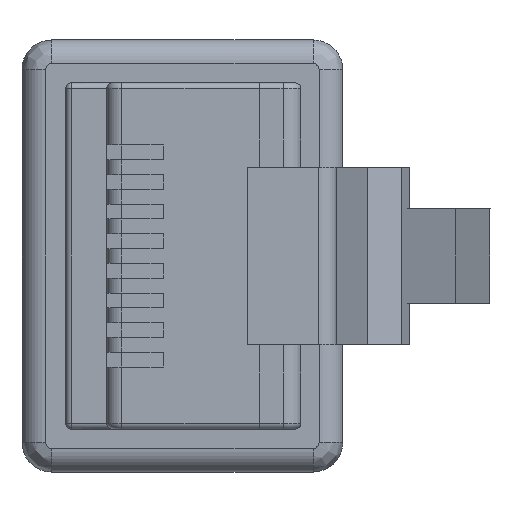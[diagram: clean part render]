
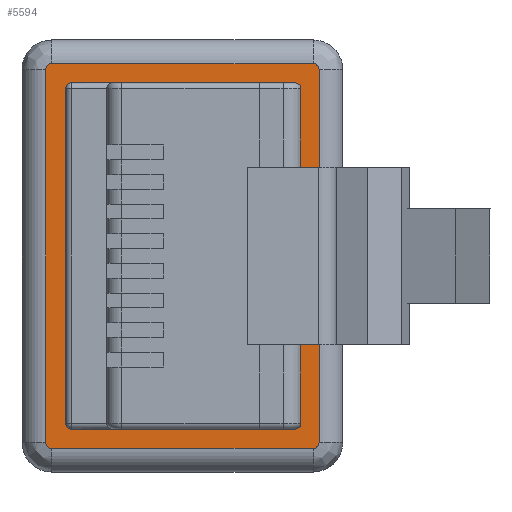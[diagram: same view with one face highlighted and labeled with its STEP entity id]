
A CAD part, left-side view. The second image highlights one B-rep face of the part: STEP entity #5594.
In plain terms, the highlighted planar face has unit normal (-1, 0, 0).
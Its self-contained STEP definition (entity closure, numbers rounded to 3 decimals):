
#73=DIRECTION('',(0.,1.,0.));
#74=VECTOR('',#73,7.54);
#75=CARTESIAN_POINT('',(18.65,-6.35,-5.85));
#76=LINE('',#75,#74);
#97=CARTESIAN_POINT('',(18.65,1.866,6.296));
#98=DIRECTION('',(1.,0.,0.));
#99=DIRECTION('',(0.,1.,0.));
#100=AXIS2_PLACEMENT_3D('',#97,#98,#99);
#105=CARTESIAN_POINT('',(18.65,-6.966,6.296));
#106=DIRECTION('',(1.,0.,0.));
#107=DIRECTION('',(0.,0.,1.));
#108=AXIS2_PLACEMENT_3D('',#105,#106,#107);
#113=CARTESIAN_POINT('',(18.65,-6.966,-6.296));
#114=DIRECTION('',(1.,0.,0.));
#115=DIRECTION('',(0.,-1.,0.));
#116=AXIS2_PLACEMENT_3D('',#113,#114,#115);
#121=CARTESIAN_POINT('',(18.65,1.866,-6.296));
#122=DIRECTION('',(1.,0.,0.));
#123=DIRECTION('',(0.,0.,-1.));
#124=AXIS2_PLACEMENT_3D('',#121,#122,#123);
#129=DIRECTION('',(0.,0.,-1.));
#130=VECTOR('',#129,12.593);
#131=CARTESIAN_POINT('',(18.65,2.066,6.296));
#132=LINE('',#131,#130);
#152=DIRECTION('',(0.,-1.,0.));
#153=VECTOR('',#152,8.833);
#154=CARTESIAN_POINT('',(18.65,1.866,-6.496));
#155=LINE('',#154,#153);
#175=DIRECTION('',(0.,0.,1.));
#176=VECTOR('',#175,12.593);
#177=CARTESIAN_POINT('',(18.65,-7.166,-6.296));
#178=LINE('',#177,#176);
#198=DIRECTION('',(0.,1.,0.));
#199=VECTOR('',#198,8.833);
#200=CARTESIAN_POINT('',(18.65,-6.966,6.496));
#201=LINE('',#200,#199);
#1907=CARTESIAN_POINT('',(18.65,-6.35,-5.65));
#1908=DIRECTION('',(-1.,0.,0.));
#1909=DIRECTION('',(0.,0.,-1.));
#1910=AXIS2_PLACEMENT_3D('',#1907,#1908,#1909);
#2058=CARTESIAN_POINT('',(18.65,1.19,-5.65));
#2059=DIRECTION('',(1.,0.,0.));
#2060=DIRECTION('',(0.,0.,-1.));
#2061=AXIS2_PLACEMENT_3D('',#2058,#2059,#2060);
#2073=DIRECTION('',(0.,0.,1.));
#2074=VECTOR('',#2073,1.246);
#2075=CARTESIAN_POINT('',(18.65,1.39,-5.65));
#2076=LINE('',#2075,#2074);
#2080=DIRECTION('',(0.,0.,1.));
#2081=VECTOR('',#2080,1.246);
#2082=CARTESIAN_POINT('',(18.65,1.39,4.404));
#2083=LINE('',#2082,#2081);
#2094=CARTESIAN_POINT('',(18.65,1.39,-4.404));
#2095=CARTESIAN_POINT('',(18.65,1.39,-4.367));
#2096=CARTESIAN_POINT('',(18.65,1.381,-4.297));
#2097=CARTESIAN_POINT('',(18.65,1.348,-4.2));
#2098=CARTESIAN_POINT('',(18.65,1.306,-4.117));
#2099=CARTESIAN_POINT('',(18.65,1.264,-4.044));
#2100=CARTESIAN_POINT('',(18.65,1.226,-3.976));
#2101=CARTESIAN_POINT('',(18.65,1.21,-3.926));
#2102=CARTESIAN_POINT('',(18.65,1.21,-3.9));
#2124=DIRECTION('',(0.,0.,1.));
#2125=VECTOR('',#2124,7.8);
#2126=CARTESIAN_POINT('',(18.65,1.21,-3.9));
#2127=LINE('',#2126,#2125);
#2139=CARTESIAN_POINT('',(18.65,1.21,3.9));
#2140=CARTESIAN_POINT('',(18.65,1.21,3.931));
#2141=CARTESIAN_POINT('',(18.65,1.232,3.991));
#2142=CARTESIAN_POINT('',(18.65,1.284,4.077));
#2143=CARTESIAN_POINT('',(18.65,1.337,4.173));
#2144=CARTESIAN_POINT('',(18.65,1.379,4.286));
#2145=CARTESIAN_POINT('',(18.65,1.39,4.363));
#2146=CARTESIAN_POINT('',(18.65,1.39,4.404));
#2525=CARTESIAN_POINT('',(18.65,1.19,5.65));
#2526=DIRECTION('',(-1.,0.,0.));
#2527=DIRECTION('',(0.,0.,1.));
#2528=AXIS2_PLACEMENT_3D('',#2525,#2526,#2527);
#2547=DIRECTION('',(0.,1.,0.));
#2548=VECTOR('',#2547,7.54);
#2549=CARTESIAN_POINT('',(18.65,-6.35,5.85));
#2550=LINE('',#2549,#2548);
#2577=CARTESIAN_POINT('',(18.65,-6.35,5.65));
#2578=DIRECTION('',(1.,0.,0.));
#2579=DIRECTION('',(0.,0.,1.));
#2580=AXIS2_PLACEMENT_3D('',#2577,#2578,#2579);
#2592=DIRECTION('',(0.,0.,-1.));
#2593=VECTOR('',#2592,11.3);
#2594=CARTESIAN_POINT('',(18.65,-6.55,5.65));
#2595=LINE('',#2594,#2593);
#5178=CARTESIAN_POINT('',(18.65,2.066,6.296));
#5179=CARTESIAN_POINT('',(18.65,1.866,6.496));
#5180=VERTEX_POINT('',#5178);
#5181=VERTEX_POINT('',#5179);
#5182=CARTESIAN_POINT('',(18.65,-6.966,6.496));
#5183=VERTEX_POINT('',#5182);
#5184=CARTESIAN_POINT('',(18.65,-7.166,6.296));
#5185=VERTEX_POINT('',#5184);
#5186=CARTESIAN_POINT('',(18.65,-7.166,
-6.296));
#5187=VERTEX_POINT('',#5186);
#5188=CARTESIAN_POINT('',(18.65,-6.966,
-6.496));
#5189=VERTEX_POINT('',#5188);
#5190=CARTESIAN_POINT('',(18.65,1.866,-6.496));
#5191=VERTEX_POINT('',#5190);
#5192=CARTESIAN_POINT('',(18.65,2.066,-6.296));
#5193=VERTEX_POINT('',#5192);
#5483=CARTESIAN_POINT('',(18.65,-6.35,-5.85));
#5484=CARTESIAN_POINT('',(18.65,1.19,-5.85));
#5485=VERTEX_POINT('',#5483);
#5486=VERTEX_POINT('',#5484);
#5487=CARTESIAN_POINT('',(18.65,-6.55,-5.65));
#5488=VERTEX_POINT('',#5487);
#5489=CARTESIAN_POINT('',(18.65,1.39,-5.65));
#5490=VERTEX_POINT('',#5489);
#5491=CARTESIAN_POINT('',(18.65,1.39,-4.404));
#5492=VERTEX_POINT('',#5491);
#5493=CARTESIAN_POINT('',(18.65,1.39,4.404));
#5494=CARTESIAN_POINT('',(18.65,1.39,5.65));
#5495=VERTEX_POINT('',#5493);
#5496=VERTEX_POINT('',#5494);
#5497=VERTEX_POINT('',#2102);
#5498=CARTESIAN_POINT('',(18.65,1.21,3.9));
#5499=VERTEX_POINT('',#5498);
#5500=CARTESIAN_POINT('',(18.65,-6.35,5.85));
#5501=CARTESIAN_POINT('',(18.65,1.19,5.85));
#5502=VERTEX_POINT('',#5500);
#5503=VERTEX_POINT('',#5501);
#5504=CARTESIAN_POINT('',(18.65,-6.55,5.65));
#5505=VERTEX_POINT('',#5504);
#5546=CARTESIAN_POINT('',(18.65,-2.55,0.));
#5547=DIRECTION('',(1.,0.,0.));
#5548=DIRECTION('',(0.,0.,-1.));
#5549=AXIS2_PLACEMENT_3D('',#5546,#5547,#5548);
#5550=PLANE('',#5549);
#5552=ORIENTED_EDGE('',*,*,#5551,.T.);
#5554=ORIENTED_EDGE('',*,*,#5553,.F.);
#5556=ORIENTED_EDGE('',*,*,#5555,.T.);
#5558=ORIENTED_EDGE('',*,*,#5557,.F.);
#5560=ORIENTED_EDGE('',*,*,#5559,.T.);
#5562=ORIENTED_EDGE('',*,*,#5561,.F.);
#5564=ORIENTED_EDGE('',*,*,#5563,.T.);
#5566=ORIENTED_EDGE('',*,*,#5565,.F.);
#5567=EDGE_LOOP('',(#5552,#5554,#5556,#5558,#5560,#5562,#5564,#5566));
#5568=FACE_OUTER_BOUND('',#5567,.F.);
#5569=ORIENTED_EDGE('',*,*,#5511,.F.);
#5571=ORIENTED_EDGE('',*,*,#5570,.T.);
#5573=ORIENTED_EDGE('',*,*,#5572,.F.);
#5575=ORIENTED_EDGE('',*,*,#5574,.F.);
#5577=ORIENTED_EDGE('',*,*,#5576,.T.);
#5579=ORIENTED_EDGE('',*,*,#5578,.T.);
#5581=ORIENTED_EDGE('',*,*,#5580,.F.);
#5583=ORIENTED_EDGE('',*,*,#5582,.F.);
#5585=ORIENTED_EDGE('',*,*,#5584,.F.);
#5587=ORIENTED_EDGE('',*,*,#5586,.F.);
#5589=ORIENTED_EDGE('',*,*,#5588,.F.);
#5591=ORIENTED_EDGE('',*,*,#5590,.F.);
#5592=EDGE_LOOP('',(#5569,#5571,#5573,#5575,#5577,#5579,#5581,#5583,#5585,#5587,
#5589,#5591));
#5593=FACE_BOUND('',#5592,.F.);
#5594=ADVANCED_FACE('',(#5568,#5593),#5550,.F.);
#101=CIRCLE('',#100,0.2);
#109=CIRCLE('',#108,0.2);
#117=CIRCLE('',#116,0.2);
#125=CIRCLE('',#124,0.2);
#1911=CIRCLE('',#1910,0.2);
#2062=CIRCLE('',#2061,0.2);
#2103=B_SPLINE_CURVE_WITH_KNOTS('',3,(#2094,#2095,#2096,#2097,#2098,#2099,#2100,
#2101,#2102),.UNSPECIFIED.,.F.,.F.,(4,1,1,1,1,1,4),(0.,0.167,
0.333,0.5,0.667,0.833,1.),
.UNSPECIFIED.);
#2147=B_SPLINE_CURVE_WITH_KNOTS('',3,(#2139,#2140,#2141,#2142,#2143,#2144,#2145,
#2146),.UNSPECIFIED.,.F.,.F.,(4,1,1,1,1,4),(0.,0.2,0.4,0.6,0.8,1.),
.UNSPECIFIED.);
#2529=CIRCLE('',#2528,0.2);
#2581=CIRCLE('',#2580,0.2);
#5511=EDGE_CURVE('',#5485,#5486,#76,.T.);
#5551=EDGE_CURVE('',#5180,#5181,#101,.T.);
#5553=EDGE_CURVE('',#5183,#5181,#201,.T.);
#5555=EDGE_CURVE('',#5183,#5185,#109,.T.);
#5557=EDGE_CURVE('',#5187,#5185,#178,.T.);
#5559=EDGE_CURVE('',#5187,#5189,#117,.T.);
#5561=EDGE_CURVE('',#5191,#5189,#155,.T.);
#5563=EDGE_CURVE('',#5191,#5193,#125,.T.);
#5565=EDGE_CURVE('',#5180,#5193,#132,.T.);
#5570=EDGE_CURVE('',#5485,#5488,#1911,.T.);
#5572=EDGE_CURVE('',#5505,#5488,#2595,.T.);
#5574=EDGE_CURVE('',#5502,#5505,#2581,.T.);
#5576=EDGE_CURVE('',#5502,#5503,#2550,.T.);
#5578=EDGE_CURVE('',#5503,#5496,#2529,.T.);
#5580=EDGE_CURVE('',#5495,#5496,#2083,.T.);
#5582=EDGE_CURVE('',#5499,#5495,#2147,.T.);
#5584=EDGE_CURVE('',#5497,#5499,#2127,.T.);
#5586=EDGE_CURVE('',#5492,#5497,#2103,.T.);
#5588=EDGE_CURVE('',#5490,#5492,#2076,.T.);
#5590=EDGE_CURVE('',#5486,#5490,#2062,.T.);
